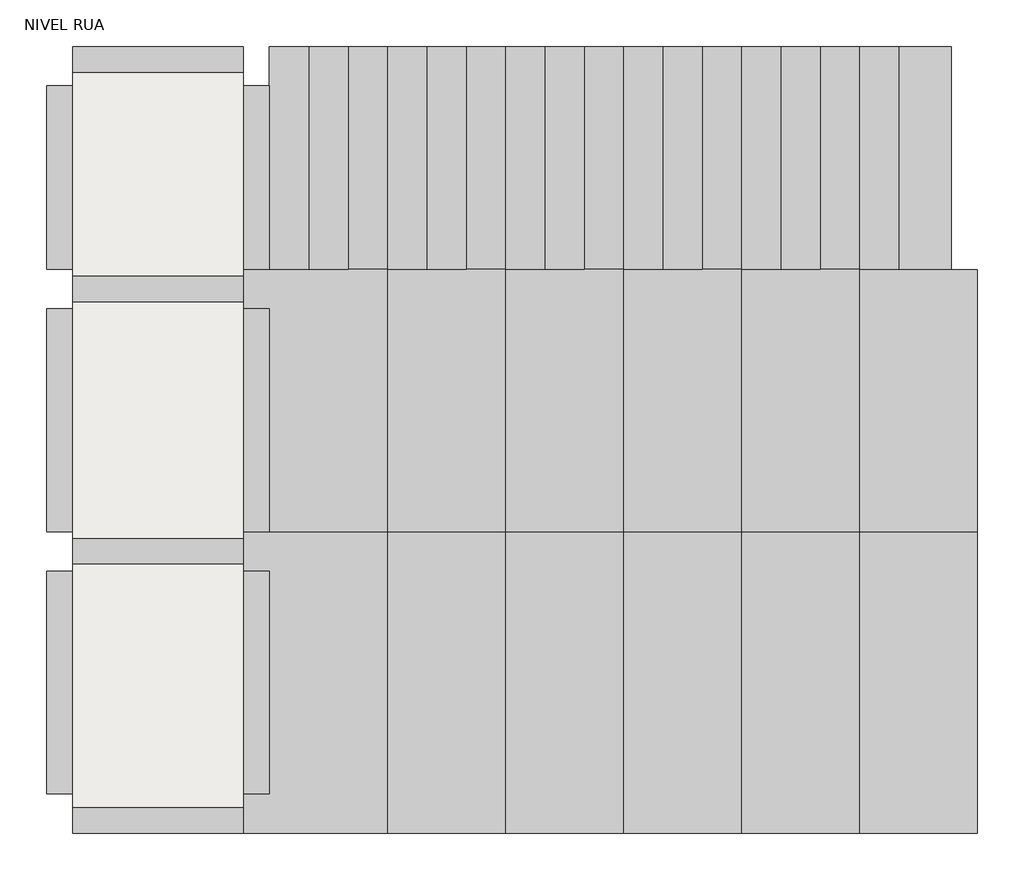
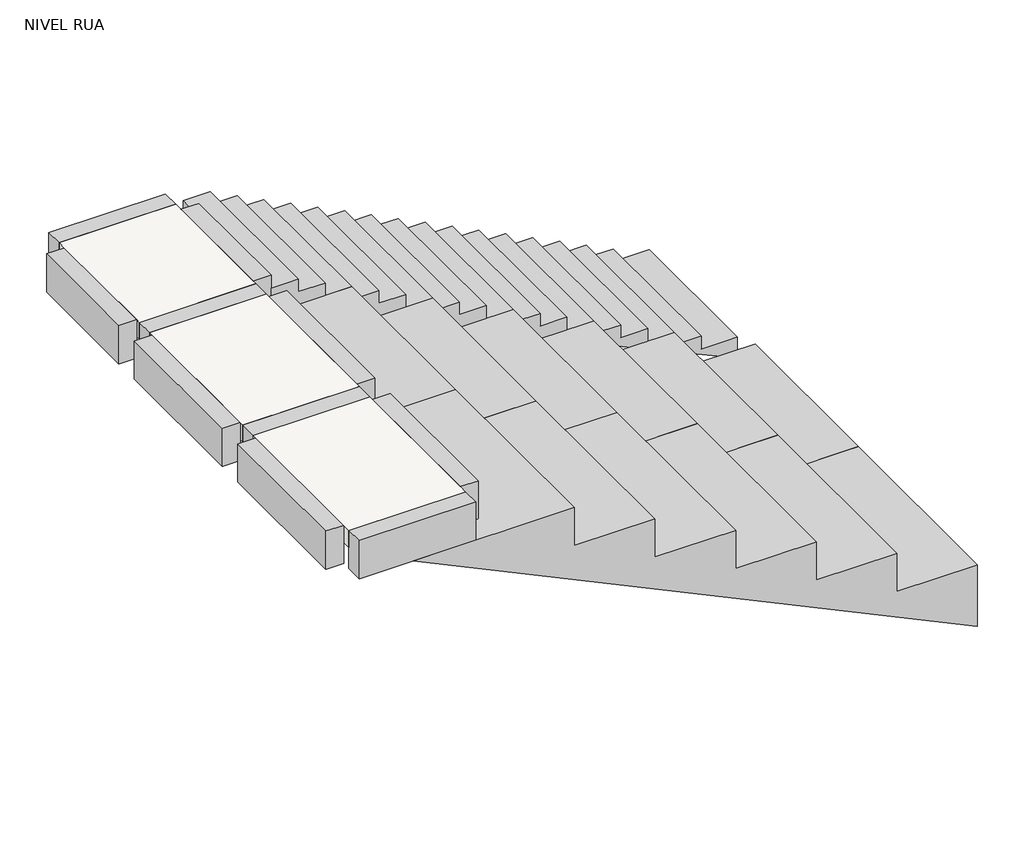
# One storey: 6 beams, 3 fasteners, 3 slabs.
"""IFC4 building model written with IfcOpenShell, lengths in millimetres."""

from ifc_helpers import new_model, si_unit, frame, origin, place, context, project, spatial, polyline, outline, extrude, faceted_brep, transform, mapped, element, save
from components import fastener_2cc3f4eb, fastener_22b7b758, fastener_4eab256e

model = new_model("IFC4")

# Units and contexts
model_context = context("Model", 3, world=origin())
ifc_project = project(units=[si_unit("LENGTHUNIT", "METRE", prefix="MILLI")], contexts=[model_context])

# Site, building, storey
site = spatial("IfcSite", under=ifc_project)
building = spatial("IfcBuilding", under=site)
storey = spatial("IfcBuildingStorey", under=building, Name="NIVEL RUA", Elevation=4650.0)

# Beams
placement = place(None, origin())
element("IfcBeam", 1, ObjectType="TQS - Viga retangular : 20,0 x 45,0", at=placement, inside=storey, context=model_context, shape_type="SweptSolid", body=[
    extrude(outline(polyline([(0.0, 5700.0), (200.0, 5700.0), (200.0, 4300.0), (0.0, 4300.0), (0.0, 5700.0)])), frame((0.0, 0.0, 4200.0), z_axis=(0.0, 0.0, 1.0), x_axis=(1.0, 0.0, 0.0)), (0.0, 0.0, 1.0), 450.0),
    extrude(outline(polyline([(200.0, 300.0), (0.0, 300.0), (0.0, 2000.0), (200.0, 2000.0), (200.0, 300.0)])), frame((0.0, 0.0, 4200.0), z_axis=(0.0, 0.0, 1.0), x_axis=(1.0, 0.0, 0.0)), (0.0, 0.0, 1.0), 450.0),
    extrude(outline(polyline([(200.0, 2300.0), (0.0, 2300.0), (0.0, 4000.0), (200.0, 4000.0), (200.0, 2300.0)])), frame((0.0, 0.0, 4200.0), z_axis=(0.0, 0.0, 1.0), x_axis=(1.0, 0.0, 0.0)), (0.0, 0.0, 1.0), 450.0),
])
element("IfcBeam", 2, ObjectType="TQS - Viga retangular : 20,0 x 45,0", at=placement, inside=storey, context=model_context, shape_type="SweptSolid", body=[
    extrude(outline(polyline([(1500.0, 5700.0), (1700.0, 5700.0), (1700.0, 4300.0), (1500.0, 4300.0), (1500.0, 5700.0)])), frame((0.0, 0.0, 4200.0), z_axis=(0.0, 0.0, 1.0), x_axis=(1.0, 0.0, 0.0)), (0.0, 0.0, 1.0), 450.0),
    extrude(outline(polyline([(1700.0, 300.0), (1500.0, 300.0), (1500.0, 2000.0), (1700.0, 2000.0), (1700.0, 300.0)])), frame((0.0, 0.0, 4200.0), z_axis=(0.0, 0.0, 1.0), x_axis=(1.0, 0.0, 0.0)), (0.0, 0.0, 1.0), 450.0),
    extrude(outline(polyline([(1700.0, 2300.0), (1500.0, 2300.0), (1500.0, 4000.0), (1700.0, 4000.0), (1700.0, 2300.0)])), frame((0.0, 0.0, 4200.0), z_axis=(0.0, 0.0, 1.0), x_axis=(1.0, 0.0, 0.0)), (0.0, 0.0, 1.0), 450.0),
])
element("IfcBeam", 3, ObjectType="TQS - Viga retangular : 20,0 x 45,0", at=placement, inside=storey, context=model_context, shape_type="Brep", body=[
    faceted_brep([(1500.0, 0.0, 4650.0), (1500.0, 200.0, 4650.0), (200.0, 200.0, 4650.0), (200.0, 0.0, 4650.0), (1500.0, 0.0, 4200.0), (200.0, 0.0, 4200.0), (1500.0, 200.0, 4200.0), (200.0, 200.0, 4200.0), (1500.0, 200.0, 4450.0), (200.0, 200.0, 4450.0)], [[[0, 1, 2, 3]], [[4, 0, 3, 5]], [[6, 4, 5, 7]], [[1, 8, 6, 7, 9, 2]], [[2, 9, 7, 5, 3]], [[1, 0, 4, 6, 8]]]),
])
element("IfcBeam", 4, ObjectType="TQS - Viga retangular : 20,0 x 45,0", at=placement, inside=storey, context=model_context, shape_type="Brep", body=[
    faceted_brep([(1500.0, 2050.0, 4650.0), (1500.0, 2250.0, 4650.0), (200.0, 2250.0, 4650.0), (200.0, 2050.0, 4650.0), (1500.0, 2050.0, 4200.0), (1500.0, 2050.0, 4450.0), (200.0, 2050.0, 4450.0), (200.0, 2050.0, 4200.0), (1500.0, 2250.0, 4200.0), (200.0, 2250.0, 4200.0), (1500.0, 2250.0, 4450.0), (200.0, 2250.0, 4450.0)], [[[0, 1, 2, 3]], [[4, 5, 0, 3, 6, 7]], [[8, 4, 7, 9]], [[1, 10, 8, 9, 11, 2]], [[2, 11, 9, 7, 6, 3]], [[1, 0, 5, 4, 8, 10]]]),
])
element("IfcBeam", 5, ObjectType="TQS - Viga retangular : 20,0 x 45,0", at=placement, inside=storey, context=model_context, shape_type="Brep", body=[
    faceted_brep([(1500.0, 4050.0, 4650.0), (1500.0, 4250.0, 4650.0), (200.0, 4250.0, 4650.0), (200.0, 4050.0, 4650.0), (1500.0, 4050.0, 4200.0), (1500.0, 4050.0, 4450.0), (200.0, 4050.0, 4450.0), (200.0, 4050.0, 4200.0), (1500.0, 4250.0, 4200.0), (200.0, 4250.0, 4200.0), (1500.0, 4250.0, 4450.0), (200.0, 4250.0, 4450.0)], [[[0, 1, 2, 3]], [[4, 5, 0, 3, 6, 7]], [[8, 4, 7, 9]], [[1, 10, 8, 9, 11, 2]], [[2, 11, 9, 7, 6, 3]], [[1, 0, 5, 4, 8, 10]]]),
])
element("IfcBeam", 6, ObjectType="TQS - Viga retangular : 20,0 x 45,0", at=placement, inside=storey, context=model_context, shape_type="Brep", body=[
    faceted_brep([(1500.0, 5800.0, 4650.0), (1500.0, 6000.0, 4650.0), (200.0, 6000.0, 4650.0), (200.0, 5800.0, 4650.0), (1500.0, 5800.0, 4200.0), (1500.0, 5800.0, 4450.0), (200.0, 5800.0, 4450.0), (200.0, 5800.0, 4200.0), (1500.0, 6000.0, 4200.0), (200.0, 6000.0, 4200.0)], [[[0, 1, 2, 3]], [[4, 5, 0, 3, 6, 7]], [[8, 4, 7, 9]], [[1, 8, 9, 2]], [[2, 9, 7, 6, 3]], [[1, 0, 5, 4, 8]]]),
])

# Fasteners
fastener_shape = fastener_2cc3f4eb(model_context)
element("IfcFastener", 7, ObjectType="TQS - Escada Família4 : TQS - Escada Família4", at=placement, inside=storey, context=model_context, shape_type="MappedRepresentation", body=[
    mapped(fastener_shape, transform((0.0, 0.0, 0.0), x_axis=(1.0, 0.0, 0.0), y_axis=(0.0, 1.0, 0.0), z_axis=(0.0, 0.0, 1.0))),
])
fastener_2_shape = fastener_22b7b758(model_context)
element("IfcFastener", 8, ObjectType="TQS - Escada Família5 : TQS - Escada Família5", at=placement, inside=storey, context=model_context, shape_type="MappedRepresentation", body=[
    mapped(fastener_2_shape, transform((0.0, 0.0, 0.0), x_axis=(1.0, 0.0, 0.0), y_axis=(0.0, 1.0, 0.0), z_axis=(0.0, 0.0, 1.0))),
])
fastener_3_shape = fastener_4eab256e(model_context)
element("IfcFastener", 9, ObjectType="TQS - Escada Família6 : TQS - Escada Família6", at=placement, inside=storey, context=model_context, shape_type="MappedRepresentation", body=[
    mapped(fastener_3_shape, transform((0.0, 0.0, 0.0), x_axis=(1.0, 0.0, 0.0), y_axis=(0.0, 1.0, 0.0), z_axis=(0.0, 0.0, 1.0))),
])

# Slabs
element("IfcSlab", 10, ObjectType="h=20", at=placement, inside=storey, context=model_context, shape_type="Brep", body=[
    faceted_brep([(1500.0, 200.0, 4450.0), (200.0, 200.0, 4450.0), (200.0, 2050.0, 4450.0), (1500.0, 2050.0, 4450.0), (1500.0, 200.0, 4650.0), (1500.0, 300.0, 4650.0), (1500.0, 2000.0, 4650.0), (1500.0, 2050.0, 4650.0), (200.0, 2050.0, 4650.0), (200.0, 2000.0, 4650.0), (200.0, 300.0, 4650.0), (200.0, 200.0, 4650.0)], [[[0, 1, 2, 3]], [[4, 5, 6, 7, 8, 9, 10, 11]], [[1, 0, 4, 11]], [[2, 1, 11, 10, 9, 8]], [[3, 2, 8, 7]], [[0, 3, 7, 6, 5, 4]]]),
])
element("IfcSlab", 11, ObjectType="h=20", at=placement, inside=storey, context=model_context, shape_type="Brep", body=[
    faceted_brep([(1500.0, 2250.0, 4450.0), (200.0, 2250.0, 4450.0), (200.0, 4050.0, 4450.0), (1500.0, 4050.0, 4450.0), (1500.0, 2250.0, 4650.0), (1500.0, 2300.0, 4650.0), (1500.0, 4000.0, 4650.0), (1500.0, 4050.0, 4650.0), (200.0, 4050.0, 4650.0), (200.0, 4000.0, 4650.0), (200.0, 2300.0, 4650.0), (200.0, 2250.0, 4650.0)], [[[0, 1, 2, 3]], [[4, 5, 6, 7, 8, 9, 10, 11]], [[1, 0, 4, 11]], [[2, 1, 11, 10, 9, 8]], [[3, 2, 8, 7]], [[0, 3, 7, 6, 5, 4]]]),
])
element("IfcSlab", 12, ObjectType="h=20", at=placement, inside=storey, context=model_context, shape_type="Brep", body=[
    faceted_brep([(1500.0, 4250.0, 4450.0), (200.0, 4250.0, 4450.0), (200.0, 5800.0, 4450.0), (1500.0, 5800.0, 4450.0), (1500.0, 4250.0, 4650.0), (1500.0, 4300.0, 4650.0), (1500.0, 5700.0, 4650.0), (1500.0, 5800.0, 4650.0), (200.0, 5800.0, 4650.0), (200.0, 5700.0, 4650.0), (200.0, 4300.0, 4650.0), (200.0, 4250.0, 4650.0)], [[[0, 1, 2, 3]], [[4, 5, 6, 7, 8, 9, 10, 11]], [[1, 0, 4, 11]], [[2, 1, 11, 10, 9, 8]], [[3, 2, 8, 7]], [[0, 3, 7, 6, 5, 4]]]),
])

save(model, "model.ifc")
